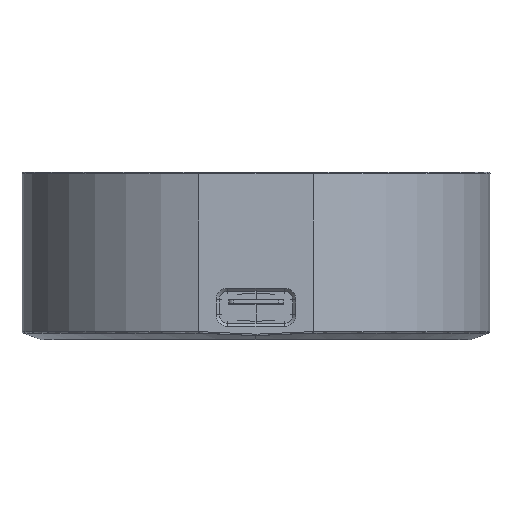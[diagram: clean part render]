
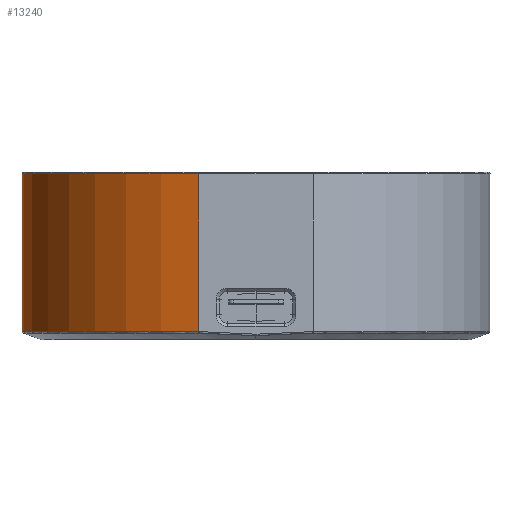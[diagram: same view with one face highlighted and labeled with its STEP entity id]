
A CAD part, left-side view. The second image highlights one B-rep face of the part: STEP entity #13240.
In plain terms, the highlighted cylindrical face has radius 14.95 mm (diameter 29.9 mm), a partial arc.
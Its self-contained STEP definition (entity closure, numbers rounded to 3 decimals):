
#238 = EDGE_CURVE ( 'NONE', #22269, #24171, #10636, .T. ) ;
#395 = CYLINDRICAL_SURFACE ( 'NONE', #9869, 14.95 ) ;
#1954 = CARTESIAN_POINT ( 'NONE',  ( -14.5, -3.64, -0.525 ) ) ;
#4077 = CIRCLE ( 'NONE', #4511, 14.95 ) ;
#4486 = ORIENTED_EDGE ( 'NONE', *, *, #13667, .T. ) ;
#4511 = AXIS2_PLACEMENT_3D ( 'NONE', #9890, #19701, #25795 ) ;
#6072 = VECTOR ( 'NONE', #31443, 1000. ) ;
#6075 = CARTESIAN_POINT ( 'NONE',  ( 0., 0., 0. ) ) ;
#6307 = ORIENTED_EDGE ( 'NONE', *, *, #238, .T. ) ;
#7834 = DIRECTION ( 'NONE',  ( -1., 0., 0. ) ) ;
#7884 = CIRCLE ( 'NONE', #30508, 14.95 ) ;
#8205 = CARTESIAN_POINT ( 'NONE',  ( 14.95, 0., -0.525 ) ) ;
#9869 = AXIS2_PLACEMENT_3D ( 'NONE', #6075, #27510, #33215 ) ;
#9890 = CARTESIAN_POINT ( 'NONE',  ( 0., 0., -0.525 ) ) ;
#10636 = B_SPLINE_CURVE_WITH_KNOTS ( 'NONE', 3,
 ( #31370, #15460, #26204, #31590 ),
 .UNSPECIFIED., .F., .F.,
 ( 4, 4 ),
 ( 0., 0. ),
 .UNSPECIFIED. ) ;
#12952 = CARTESIAN_POINT ( 'NONE',  ( -14.5, -3.64, 0. ) ) ;
#13068 = VERTEX_POINT ( 'NONE', #8205 ) ;
#13207 = LINE ( 'NONE', #12952, #6072 ) ;
#13240 = ADVANCED_FACE ( 'NONE', ( #22629 ), #395, .T. ) ;
#13667 = EDGE_CURVE ( 'NONE', #21208, #33454, #7884, .T. ) ;
#14229 = ORIENTED_EDGE ( 'NONE', *, *, #32122, .T. ) ;
#15460 = CARTESIAN_POINT ( 'NONE',  ( -14.5, -3.64, -0.525 ) ) ;
#19025 = EDGE_LOOP ( 'NONE', ( #4486, #23524, #14229, #6307, #31421 ) ) ;
#19611 = EDGE_CURVE ( 'NONE', #24171, #21208, #13207, .T. ) ;
#19701 = DIRECTION ( 'NONE',  ( 0., 0., -1. ) ) ;
#20297 = CARTESIAN_POINT ( 'NONE',  ( 14.95, 0., -10.6 ) ) ;
#21208 = VERTEX_POINT ( 'NONE', #26500 ) ;
#21432 = CARTESIAN_POINT ( 'NONE',  ( 0., 0., -10.6 ) ) ;
#21901 = LINE ( 'NONE', #23308, #34418 ) ;
#22269 = VERTEX_POINT ( 'NONE', #1954 ) ;
#22629 = FACE_OUTER_BOUND ( 'NONE', #19025, .T. ) ;
#23308 = CARTESIAN_POINT ( 'NONE',  ( 14.95, 0., 0. ) ) ;
#23442 = CARTESIAN_POINT ( 'NONE',  ( -14.5, -3.64, -0.526 ) ) ;
#23524 = ORIENTED_EDGE ( 'NONE', *, *, #34553, .T. ) ;
#24171 = VERTEX_POINT ( 'NONE', #23442 ) ;
#25795 = DIRECTION ( 'NONE',  ( 1., 0., 0. ) ) ;
#25851 = DIRECTION ( 'NONE',  ( 0., 0., 1. ) ) ;
#26204 = CARTESIAN_POINT ( 'NONE',  ( -14.5, -3.64, -0.526 ) ) ;
#26500 = CARTESIAN_POINT ( 'NONE',  ( -14.5, -3.64, -10.6 ) ) ;
#26809 = DIRECTION ( 'NONE',  ( 0., 0., 1. ) ) ;
#27510 = DIRECTION ( 'NONE',  ( 0., 0., 1. ) ) ;
#30508 = AXIS2_PLACEMENT_3D ( 'NONE', #21432, #26809, #7834 ) ;
#31370 = CARTESIAN_POINT ( 'NONE',  ( -14.5, -3.64, -0.525 ) ) ;
#31421 = ORIENTED_EDGE ( 'NONE', *, *, #19611, .T. ) ;
#31443 = DIRECTION ( 'NONE',  ( 0., 0., -1. ) ) ;
#31590 = CARTESIAN_POINT ( 'NONE',  ( -14.5, -3.64, -0.526 ) ) ;
#32122 = EDGE_CURVE ( 'NONE', #13068, #22269, #4077, .T. ) ;
#33215 = DIRECTION ( 'NONE',  ( 1., 0., 0. ) ) ;
#33454 = VERTEX_POINT ( 'NONE', #20297 ) ;
#34418 = VECTOR ( 'NONE', #25851, 1000. ) ;
#34553 = EDGE_CURVE ( 'NONE', #33454, #13068, #21901, .T. ) ;
